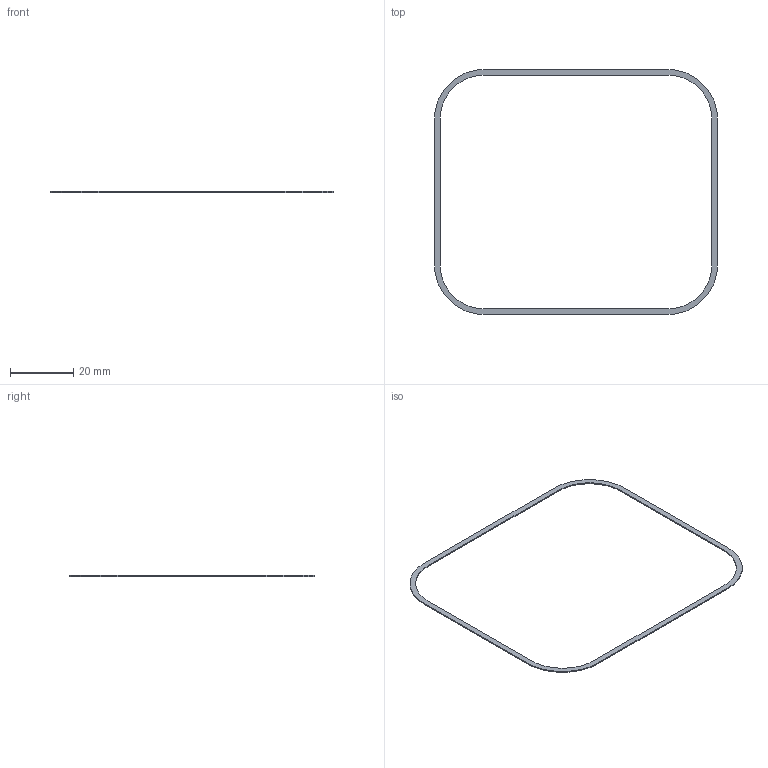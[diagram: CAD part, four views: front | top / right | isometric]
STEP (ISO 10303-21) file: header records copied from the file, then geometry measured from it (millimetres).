
FILE_DESCRIPTION(('Open CASCADE Model'),'2;1');
FILE_NAME('Open CASCADE Shape Model','2026-10-01T12:35:21',('Author'),( 'Open CASCADE'),'Open CASCADE STEP processor 7.8','Open CASCADE 7.8' ,'Unknown');
FILE_SCHEMA(('AUTOMOTIVE_DESIGN { 1 0 10303 214 1 1 1 1 }'));
Length unit declared in the file: millimetre
Products named in the file (2): H00_Seam_anti_rattle_foam; H00_Seam_anti_rattle_foam_solid
Assembly tree (1 placements, depth 2):
  H00_Seam_anti_rattle_foam
    H00_Seam_anti_rattle_foam_solid
Bounding box: 89.4 x 77.4 x 0.35 mm (x, y, z)
Volume: 189.6 mm3; surface area: 1294.3 mm2
Topology: 1 solids, 1 shells, 18 faces, 48 edges, 32 vertices
Faces by surface type: plane 10, cylinder 8
Entity records: 1229 total; most frequent: CARTESIAN_POINT 236, DIRECTION 180, ORIENTED_EDGE 96, LINE 96, VECTOR 96, PCURVE 96, DEFINITIONAL_REPRESENTATION 96, EDGE_CURVE 48
